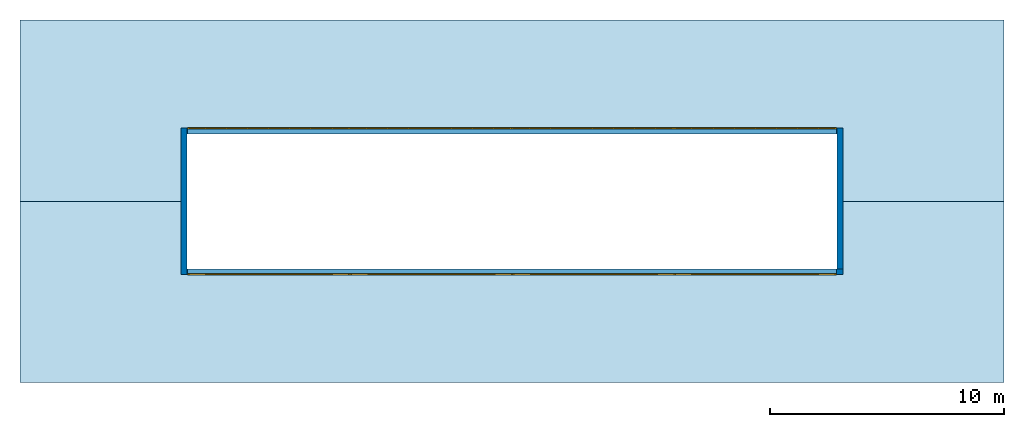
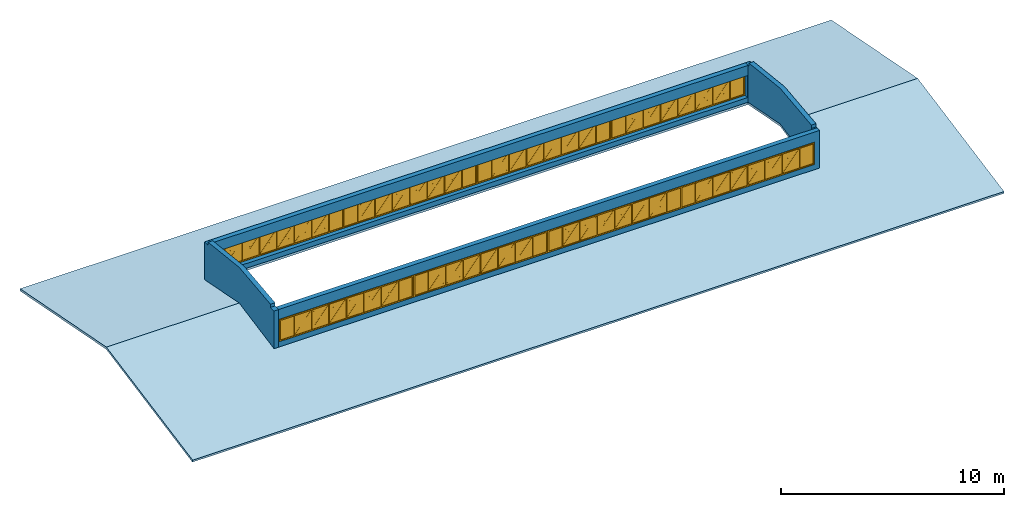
# One storey: 8 windows, 4 walls, 1 roof, 8 openings.
"""IFC2X3 building model written with IfcOpenShell, lengths in millimetres."""

from ifc_helpers import new_model, entity, si_unit, converted_unit, derived_unit, direction, frame, frame_2d, origin, origin_2d_with_axis, place, context, subcontext, project, spatial, polyline, rectangle, outline, extrude, clip, bounded_halfspace, faceted_brep, source, transform, mapped, material, material_list, layer, layer_set, layer_usage, type_object, type_shapes, element, fill, save


model = new_model("IFC2X3")

# Units and contexts
model_context = context("Model", 3, precision=0.01, world=origin(), true_north=direction((6.12303176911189e-17, 1.0)))
body_context = subcontext(model_context, "Body", "Model", "MODEL_VIEW")
ifc_project = project(units=[si_unit("LENGTHUNIT", "METRE", prefix="MILLI"), si_unit("AREAUNIT", "SQUARE_METRE"), si_unit("VOLUMEUNIT", "CUBIC_METRE"), converted_unit("PLANEANGLEUNIT", "DEGREE", entity("IfcRatioMeasure", 0.0174532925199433), si_unit("PLANEANGLEUNIT", "RADIAN"), dimensions=[0, 0, 0, 0, 0, 0, 0]), si_unit("MASSUNIT", "GRAM", prefix="KILO"), derived_unit("MASSDENSITYUNIT", [(si_unit("MASSUNIT", "GRAM", prefix="KILO"), 1), (si_unit("LENGTHUNIT", "METRE"), -3)]), si_unit("TIMEUNIT", "SECOND"), si_unit("FREQUENCYUNIT", "HERTZ"), si_unit("THERMODYNAMICTEMPERATUREUNIT", "DEGREE_CELSIUS"), derived_unit("THERMALTRANSMITTANCEUNIT", [(si_unit("MASSUNIT", "GRAM", prefix="KILO"), 1), (si_unit("THERMODYNAMICTEMPERATUREUNIT", "KELVIN"), -1), (si_unit("TIMEUNIT", "SECOND"), -3)]), derived_unit("VOLUMETRICFLOWRATEUNIT", [(si_unit("LENGTHUNIT", "METRE"), 3), (si_unit("TIMEUNIT", "SECOND"), -1)]), si_unit("ELECTRICCURRENTUNIT", "AMPERE"), si_unit("ELECTRICVOLTAGEUNIT", "VOLT"), si_unit("POWERUNIT", "WATT"), si_unit("FORCEUNIT", "NEWTON", prefix="KILO"), si_unit("ILLUMINANCEUNIT", "LUX"), si_unit("LUMINOUSFLUXUNIT", "LUMEN"), si_unit("LUMINOUSINTENSITYUNIT", "CANDELA"), derived_unit("USERDEFINED", [(si_unit("MASSUNIT", "GRAM", prefix="KILO"), -1), (si_unit("LENGTHUNIT", "METRE"), -2), (si_unit("TIMEUNIT", "SECOND"), 3), (si_unit("LUMINOUSFLUXUNIT", "LUMEN"), 1)]), derived_unit("LINEARVELOCITYUNIT", [(si_unit("LENGTHUNIT", "METRE"), 1), (si_unit("TIMEUNIT", "SECOND"), -1)]), si_unit("PRESSUREUNIT", "PASCAL"), derived_unit("USERDEFINED", [(si_unit("LENGTHUNIT", "METRE"), -2), (si_unit("MASSUNIT", "GRAM", prefix="KILO"), 1), (si_unit("TIMEUNIT", "SECOND"), -2)])], contexts=[model_context])

# Site, building, storey
site_placement = place(None, origin())
site = spatial("IfcSite", under=ifc_project, at=site_placement, Name="表面", CompositionType="ELEMENT")
building_placement = place(site_placement, origin())
building = spatial("IfcBuilding", under=site, at=building_placement, CompositionType="ELEMENT")
storey_placement = place(building_placement, frame((0.0, 0.0, 10390.0)))
storey = spatial("IfcBuildingStorey", under=building, at=storey_placement, Name="10.390", CompositionType="ELEMENT", Elevation=10390.0)

# Wall, openings, windows
ifc_material_1 = material(Name="砖石建筑 - 砖")
ifc_layer = layer(ifc_material_1, 240.0)
ifc_layer_set = layer_set([ifc_layer], Name="基本墙:砖墙240mm")
ifc_layer_usage_1 = layer_usage(ifc_layer_set, "AXIS2", "NEGATIVE", 120.0)
wall_type = type_object("IfcWallType", Name="基本墙:砖墙240mm", PredefinedType="STANDARD", material=ifc_layer_set)
wall_1_placement = place(storey_placement, frame((-24908.798781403, 5109.69740738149, 721.171731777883)))
wall_1 = element("IfcWallStandardCase", 1, at=wall_1_placement, inside=storey, type_object=wall_type, material=ifc_layer_usage_1, Name="基本墙:砖墙240mm", ObjectType="基本墙:砖墙240mm", context=body_context, shape_type="Clipping", body=[
    clip(extrude(rectangle(XDim=28000.0, YDim=240.0, at=frame_2d((14000.0, 1.70530256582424e-13), x_axis=(-1.0, 0.0))), origin(), (0.0, 0.0, 1.0), 2058.82826822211), bounded_halfspace(frame((28000.0, 120.0, 46.4339580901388), z_axis=(0.0, -0.189952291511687, 0.981793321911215), x_axis=(1.0, 0.0, 0.0)), True, frame((28000.0, 120.0, 46.4339580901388)), polyline([(0.0, 0.0), (-240.0, 0.0), (-28000.0, 0.0), (-28000.0, -240.0), (0.0, -240.0), (0.0, 0.0)]))),
])
opening_1_placement = place(wall_1_placement, frame((13910.0, 120.0, 308.82826822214)))
opening_1 = element("IfcOpeningElement", 2, at=opening_1_placement, cuts=wall_1, Name="房顶窗(c-8):房顶窗(c-8):1", ObjectType="Opening", context=body_context, shape_type="SweptSolid", body=[
    extrude(rectangle(XDim=1200.0, YDim=6940.0, at=frame_2d((600.0, 3470.0), x_axis=(1.0, 0.0))), frame((0.0, 0.0, 0.0), z_axis=(0.0, -1.0, 0.0), x_axis=(0.0, 0.0, 1.0)), (0.0, 0.0, 1.0), 240.0),
])
opening_2_placement = place(wall_1_placement, frame((20850.0, 120.0, 308.828268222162)))
opening_2 = element("IfcOpeningElement", 3, at=opening_2_placement, cuts=wall_1, Name="房顶窗(c-8):房顶窗(c-8):1", ObjectType="Opening", context=body_context, shape_type="SweptSolid", body=[
    extrude(rectangle(XDim=1200.0, YDim=6940.0, at=frame_2d((600.0, 3470.0), x_axis=(1.0, 0.0))), frame((0.0, 0.0, 0.0), z_axis=(0.0, -1.0, 0.0), x_axis=(0.0, 0.0, 1.0)), (0.0, 0.0, 1.0), 240.0),
])
opening_3_placement = place(wall_1_placement, frame((6970.0, 120.0, 308.828268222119)))
opening_3 = element("IfcOpeningElement", 4, at=opening_3_placement, cuts=wall_1, Name="房顶窗(c-8):房顶窗(c-8):1", ObjectType="Opening", context=body_context, shape_type="SweptSolid", body=[
    extrude(rectangle(XDim=1200.0, YDim=6940.0, at=frame_2d((600.0, 3470.0), x_axis=(1.0, 0.0))), frame((0.0, 0.0, 0.0), z_axis=(0.0, -1.0, 0.0), x_axis=(0.0, 0.0, 1.0)), (0.0, 0.0, 1.0), 240.0),
])
opening_4_placement = place(wall_1_placement, frame((27730.0, 120.0, 308.828268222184)))
opening_4 = element("IfcOpeningElement", 5, at=opening_4_placement, cuts=wall_1, Name="房顶窗(c-8):房顶窗(c-8):1", ObjectType="Opening", context=body_context, shape_type="SweptSolid", body=[
    extrude(rectangle(XDim=1200.0, YDim=6940.0, at=frame_2d((600.0, 3470.0), x_axis=(1.0, 0.0))), frame((0.0, 0.0, 0.0), z_axis=(0.0, -1.0, 0.0), x_axis=(0.0, 0.0, 1.0)), (0.0, 0.0, 1.0), 240.0),
])
ifc_material_2 = material(Name="窗框")
ifc_material_3 = material(Name="玻璃")
ifc_material_list_1 = material_list([ifc_material_2, ifc_material_3])
ifc_material_list_2 = material_list([ifc_material_2, ifc_material_3])
window_style = type_object("IfcWindowStyle", Name="房顶窗(c-8)", ConstructionType="NOTDEFINED", OperationType="NOTDEFINED", ParameterTakesPrecedence=False, Sizeable=False, material=ifc_material_list_2)
shared_shape = source(origin(), body_context, "Body", "SweptSolid", [
    extrude(rectangle(XDim=60.0, YDim=19.9999999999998, at=frame_2d((8.88178419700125e-15, 0.0), x_axis=(1.0, 0.0))), frame((770.0, 240.0, 60.0), z_axis=(0.0, 0.0, 1.0), x_axis=(0.0, 1.0, 0.0)), (0.0, 0.0, 1.0), 1080.0),
    extrude(rectangle(XDim=60.0, YDim=19.9999999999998, at=frame_2d((1.77635683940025e-14, 0.0), x_axis=(1.0, 0.0))), frame((6170.0, 240.0, 60.0), z_axis=(0.0, 0.0, 1.0), x_axis=(0.0, 1.0, 0.0)), (0.0, 0.0, 1.0), 1080.0),
    extrude(rectangle(XDim=60.0, YDim=19.9999999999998, at=frame_2d((-1.77635683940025e-14, 0.0), x_axis=(1.0, 0.0))), frame((5270.0, 240.0, 60.0), z_axis=(0.0, 0.0, 1.0), x_axis=(0.0, 1.0, 0.0)), (0.0, 0.0, 1.0), 1080.0),
    extrude(rectangle(XDim=60.0, YDim=19.9999999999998, at=frame_2d((1.77635683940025e-14, 0.0), x_axis=(1.0, 0.0))), frame((4370.0, 240.0, 60.0), z_axis=(0.0, 0.0, 1.0), x_axis=(0.0, 1.0, 0.0)), (0.0, 0.0, 1.0), 1080.0),
    extrude(rectangle(XDim=60.0, YDim=19.9999999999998, at=frame_2d((-1.77635683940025e-14, 0.0), x_axis=(1.0, 0.0))), frame((3470.0, 240.0, 60.0), z_axis=(0.0, 0.0, 1.0), x_axis=(0.0, 1.0, 0.0)), (0.0, 0.0, 1.0), 1080.0),
    extrude(rectangle(XDim=60.0, YDim=19.9999999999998, at=frame_2d((1.77635683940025e-14, 0.0), x_axis=(1.0, 0.0))), frame((2570.0, 240.0, 60.0), z_axis=(0.0, 0.0, 1.0), x_axis=(0.0, 1.0, 0.0)), (0.0, 0.0, 1.0), 1080.0),
    extrude(rectangle(XDim=60.0, YDim=19.9999999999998, at=frame_2d((-1.77635683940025e-14, 0.0), x_axis=(1.0, 0.0))), frame((1670.0, 240.0, 60.0), z_axis=(0.0, 0.0, 1.0), x_axis=(0.0, 1.0, 0.0)), (0.0, 0.0, 1.0), 1080.0),
    extrude(outline(polyline([(-3470.0, -600.0), (3470.0, -600.0), (3470.0, 600.0), (-3470.0, 600.0), (-3470.0, -600.0)]), holes=[polyline([(-3410.0, -540.0), (-3410.0, 540.0), (3410.0, 540.0), (3410.0, -540.0), (-3410.0, -540.0)])]), frame((3470.0, 210.0, 600.0), z_axis=(0.0, 1.0, 0.0), x_axis=(1.0, 0.0, 0.0)), (0.0, 0.0, 1.0), 60.0),
    extrude(rectangle(XDim=6.00000000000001, YDim=6820.0, at=origin_2d_with_axis()), frame((3470.0, 240.0, 60.0), z_axis=(0.0, 0.0, 1.0), x_axis=(0.0, 1.0, 0.0)), (0.0, 0.0, 1.0), 1080.0),
    extrude(outline(polyline([(530.0, -440.0), (540.0, -440.0), (540.0, -431.851851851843), (10.0, 0.0), (540.0, 431.851851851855), (540.0, 440.0), (530.0, 440.0), (0.0, 8.1481481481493), (-530.0, 440.0), (-540.0, 440.0), (-540.0, 431.851851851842), (-10.0, 0.0), (-540.0, -431.851851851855), (-540.0, -440.0), (-530.0, -440.0), (0.0, -8.14814814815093), (530.0, -440.0)])), frame((1220.0, 230.0, 600.0), z_axis=(0.0, 1.0, 0.0), x_axis=(0.0, 0.0, -1.0)), (0.0, 0.0, 1.0), 20.0),
    extrude(outline(polyline([(530.0, -440.0), (540.0, -440.0), (540.0, -431.851851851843), (10.0, 0.0), (540.0, 431.851851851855), (540.0, 440.0), (530.0, 440.0), (0.0, 8.14814814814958), (-530.0, 440.0), (-540.0, 440.0), (-540.0, 431.851851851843), (-10.0, 0.0), (-540.0, -431.851851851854), (-540.0, -440.0), (-530.0, -440.0), (0.0, -8.14814814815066), (530.0, -440.0)])), frame((2120.0, 230.0, 600.0), z_axis=(0.0, 1.0, 0.0), x_axis=(0.0, 0.0, -1.0)), (0.0, 0.0, 1.0), 20.0),
    extrude(outline(polyline([(530.0, -440.0), (540.0, -440.0), (540.0, -431.851851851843), (10.0, 0.0), (540.0, 431.851851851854), (540.0, 440.0), (530.0, 440.0), (0.0, 8.14814814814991), (-530.0, 440.0), (-540.0, 440.0), (-540.0, 431.851851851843), (-10.0, 0.0), (-540.0, -431.851851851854), (-540.0, -440.0), (-530.0, -440.0), (0.0, -8.14814814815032), (530.0, -440.0)])), frame((3020.0, 230.0, 600.0), z_axis=(0.0, 1.0, 0.0), x_axis=(0.0, 0.0, -1.0)), (0.0, 0.0, 1.0), 20.0),
    extrude(outline(polyline([(530.0, -440.0), (540.0, -440.0), (540.0, -431.851851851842), (10.0, 0.0), (540.0, 431.851851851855), (540.0, 440.0), (530.0, 440.0), (0.0, 8.14814814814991), (-530.0, 440.0), (-540.0, 440.0), (-540.0, 431.851851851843), (-10.0, 0.0), (-540.0, -431.851851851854), (-540.0, -440.0), (-530.0, -440.0), (0.0, -8.14814814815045), (530.0, -440.0)])), frame((3920.0, 230.0, 600.0), z_axis=(0.0, 1.0, 0.0), x_axis=(0.0, 0.0, -1.0)), (0.0, 0.0, 1.0), 20.0),
    extrude(outline(polyline([(530.0, -440.0), (540.0, -440.0), (540.0, -431.851851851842), (10.0, 0.0), (540.0, 431.851851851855), (540.0, 440.0), (530.0, 440.0), (0.0, 8.14814814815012), (-530.0, 440.0), (-540.0, 440.0), (-540.0, 431.851851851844), (-10.0, 0.0), (-540.0, -431.851851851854), (-540.0, -440.0), (-530.0, -440.0), (0.0, -8.14814814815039), (530.0, -440.0)])), frame((4820.0, 230.0, 600.0), z_axis=(0.0, 1.0, 0.0), x_axis=(0.0, 0.0, -1.0)), (0.0, 0.0, 1.0), 20.0),
    extrude(outline(polyline([(530.0, -440.0), (540.0, -440.0), (540.0, -431.851851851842), (10.0, 0.0), (540.0, 431.851851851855), (540.0, 440.0), (530.0, 440.0), (0.0, 8.14814814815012), (-530.0, 440.0), (-540.0, 440.0), (-540.0, 431.851851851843), (-10.0, 0.0), (-540.0, -431.851851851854), (-540.0, -440.0), (-530.0, -440.0), (0.0, -8.14814814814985), (530.0, -440.0)])), frame((5720.0, 230.0, 600.0), z_axis=(0.0, 1.0, 0.0), x_axis=(0.0, 0.0, -1.0)), (0.0, 0.0, 1.0), 20.0),
])
type_shapes(window_style, [shared_shape])
window_1_placement = place(opening_3_placement, frame((0.0, 0.0, 0.0), z_axis=(0.0, 0.0, 1.0), x_axis=(-1.0, 0.0, 0.0)))
window_1 = element("IfcWindow", 6, at=window_1_placement, inside=storey, type_object=window_style, material=ifc_material_list_1, Name="房顶窗(c-8):房顶窗(c-8)", ObjectType="房顶窗(c-8)", OverallHeight=1200.0, OverallWidth=6940.0, context=body_context, shape_type="MappedRepresentation", body=[
    mapped(shared_shape, transform((0.0, 0.0, 0.0), scale=1.0)),
])
fill(opening_3, window_1)
ifc_material_list_3 = material_list([ifc_material_2, ifc_material_3])
window_2_placement = place(opening_1_placement, frame((0.0, 0.0, 0.0), z_axis=(0.0, 0.0, 1.0), x_axis=(-1.0, 0.0, 0.0)))
window_2 = element("IfcWindow", 7, at=window_2_placement, inside=storey, type_object=window_style, material=ifc_material_list_3, Name="房顶窗(c-8):房顶窗(c-8)", ObjectType="房顶窗(c-8)", OverallHeight=1200.0, OverallWidth=6940.0, context=body_context, shape_type="MappedRepresentation", body=[
    mapped(shared_shape, transform((0.0, 0.0, 0.0), scale=1.0)),
])
fill(opening_1, window_2)
ifc_material_list_4 = material_list([ifc_material_2, ifc_material_3])
window_3_placement = place(opening_2_placement, frame((0.0, 0.0, 0.0), z_axis=(0.0, 0.0, 1.0), x_axis=(-1.0, 0.0, 0.0)))
window_3 = element("IfcWindow", 8, at=window_3_placement, inside=storey, type_object=window_style, material=ifc_material_list_4, Name="房顶窗(c-8):房顶窗(c-8)", ObjectType="房顶窗(c-8)", OverallHeight=1200.0, OverallWidth=6940.0, context=body_context, shape_type="MappedRepresentation", body=[
    mapped(shared_shape, transform((0.0, 0.0, 0.0), scale=1.0)),
])
fill(opening_2, window_3)
ifc_material_list_5 = material_list([ifc_material_2, ifc_material_3])
window_4_placement = place(opening_4_placement, frame((0.0, 0.0, 0.0), z_axis=(0.0, 0.0, 1.0), x_axis=(-1.0, 0.0, 0.0)))
window_4 = element("IfcWindow", 9, at=window_4_placement, inside=storey, type_object=window_style, material=ifc_material_list_5, Name="房顶窗(c-8):房顶窗(c-8)", ObjectType="房顶窗(c-8)", OverallHeight=1200.0, OverallWidth=6940.0, context=body_context, shape_type="MappedRepresentation", body=[
    mapped(shared_shape, transform((0.0, 0.0, 0.0), scale=1.0)),
])
fill(opening_4, window_4)

ifc_layer_usage_2 = layer_usage(ifc_layer_set, "AXIS2", "NEGATIVE", 120.0)
wall_2_placement = place(storey_placement, frame((-24908.798781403, 11109.6974073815, 721.17173177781)))
wall_2 = element("IfcWallStandardCase", 10, at=wall_2_placement, inside=storey, type_object=wall_type, material=ifc_layer_usage_2, Name="基本墙:砖墙240mm", ObjectType="基本墙:砖墙240mm", context=body_context, shape_type="Clipping", body=[
    clip(extrude(rectangle(XDim=27760.0, YDim=240.000000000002, at=frame_2d((13880.0, 2.48689957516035e-13), x_axis=(-1.0, 0.0))), origin(), (0.0, 0.0, 1.0), 2058.82826822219), bounded_halfspace(frame((27760.0, -120.0, 46.4339580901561), z_axis=(0.0, 0.189952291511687, 0.981793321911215), x_axis=(-1.0, 0.0, 0.0)), True, frame((27760.0, -120.0, 46.4339580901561)), polyline([(0.0, 0.0), (0.0, 240.0), (-27760.0, 240.0), (-27760.0, 0.0), (0.0, 0.0)]))),
])
opening_5_placement = place(wall_2_placement, frame((20790.0, -120.0, 308.828268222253)))
opening_5 = element("IfcOpeningElement", 11, at=opening_5_placement, cuts=wall_2, Name="房顶窗(c-8):房顶窗(c-8):1", ObjectType="Opening", context=body_context, shape_type="SweptSolid", body=[
    extrude(rectangle(XDim=1200.0, YDim=6940.0, at=frame_2d((600.000000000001, 3470.0), x_axis=(1.0, 0.0))), frame((0.0, 0.0, 0.0), z_axis=(0.0, 1.0, 0.0), x_axis=(0.0, 0.0, 1.0)), (0.0, 0.0, 1.0), 240.0),
])
opening_6_placement = place(wall_2_placement, frame((13850.0, -120.0, 308.828268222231)))
opening_6 = element("IfcOpeningElement", 12, at=opening_6_placement, cuts=wall_2, Name="房顶窗(c-8):房顶窗(c-8):1", ObjectType="Opening", context=body_context, shape_type="SweptSolid", body=[
    extrude(rectangle(XDim=1200.0, YDim=6940.0, at=frame_2d((600.000000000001, 3470.0), x_axis=(1.0, 0.0))), frame((0.0, 0.0, 0.0), z_axis=(0.0, 1.0, 0.0), x_axis=(0.0, 0.0, 1.0)), (0.0, 0.0, 1.0), 240.0),
])
opening_7_placement = place(wall_2_placement, frame((6910.0, -120.0, 308.82826822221)))
opening_7 = element("IfcOpeningElement", 13, at=opening_7_placement, cuts=wall_2, Name="房顶窗(c-8):房顶窗(c-8):1", ObjectType="Opening", context=body_context, shape_type="SweptSolid", body=[
    extrude(rectangle(XDim=1200.0, YDim=6940.0, at=frame_2d((600.000000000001, 3470.0), x_axis=(1.0, 0.0))), frame((0.0, 0.0, 0.0), z_axis=(0.0, 1.0, 0.0), x_axis=(0.0, 0.0, 1.0)), (0.0, 0.0, 1.0), 240.0),
])
opening_8_placement = place(wall_2_placement, frame((30.0, -120.0, 308.828268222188)))
opening_8 = element("IfcOpeningElement", 14, at=opening_8_placement, cuts=wall_2, Name="房顶窗(c-8):房顶窗(c-8):1", ObjectType="Opening", context=body_context, shape_type="SweptSolid", body=[
    extrude(rectangle(XDim=1200.0, YDim=6940.0, at=frame_2d((600.000000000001, 3470.0), x_axis=(1.0, 0.0))), frame((0.0, 0.0, 0.0), z_axis=(0.0, 1.0, 0.0), x_axis=(0.0, 0.0, 1.0)), (0.0, 0.0, 1.0), 240.0),
])
ifc_material_list_6 = material_list([ifc_material_2, ifc_material_3])
window_5_placement = place(opening_8_placement, origin())
window_5 = element("IfcWindow", 15, at=window_5_placement, inside=storey, type_object=window_style, material=ifc_material_list_6, Name="房顶窗(c-8):房顶窗(c-8)", ObjectType="房顶窗(c-8)", OverallHeight=1200.0, OverallWidth=6940.0, context=body_context, shape_type="MappedRepresentation", body=[
    mapped(shared_shape, transform((0.0, 0.0, 0.0), scale=1.0)),
])
fill(opening_8, window_5)
ifc_material_list_7 = material_list([ifc_material_2, ifc_material_3])
window_6_placement = place(opening_7_placement, origin())
window_6 = element("IfcWindow", 16, at=window_6_placement, inside=storey, type_object=window_style, material=ifc_material_list_7, Name="房顶窗(c-8):房顶窗(c-8)", ObjectType="房顶窗(c-8)", OverallHeight=1200.0, OverallWidth=6940.0, context=body_context, shape_type="MappedRepresentation", body=[
    mapped(shared_shape, transform((0.0, 0.0, 0.0), scale=1.0)),
])
fill(opening_7, window_6)
ifc_material_list_8 = material_list([ifc_material_2, ifc_material_3])
window_7_placement = place(opening_6_placement, origin())
window_7 = element("IfcWindow", 17, at=window_7_placement, inside=storey, type_object=window_style, material=ifc_material_list_8, Name="房顶窗(c-8):房顶窗(c-8)", ObjectType="房顶窗(c-8)", OverallHeight=1200.0, OverallWidth=6940.0, context=body_context, shape_type="MappedRepresentation", body=[
    mapped(shared_shape, transform((0.0, 0.0, 0.0), scale=1.0)),
])
fill(opening_6, window_7)
ifc_material_list_9 = material_list([ifc_material_2, ifc_material_3])
window_8_placement = place(opening_5_placement, origin())
window_8 = element("IfcWindow", 18, at=window_8_placement, inside=storey, type_object=window_style, material=ifc_material_list_9, Name="房顶窗(c-8):房顶窗(c-8)", ObjectType="房顶窗(c-8)", OverallHeight=1200.0, OverallWidth=6940.0, context=body_context, shape_type="MappedRepresentation", body=[
    mapped(shared_shape, transform((0.0, 0.0, 0.0), scale=1.0)),
])
fill(opening_5, window_8)

# Walls
ifc_layer_usage_3 = layer_usage(ifc_layer_set, "AXIS2", "NEGATIVE", 120.0)
wall_3_placement = place(storey_placement, frame((-25028.798781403, 11229.6974073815, 721.17173177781), z_axis=(0.0, 0.0, 1.0), x_axis=(0.0, -1.0, 0.0)))
element("IfcWallStandardCase", 19, at=wall_3_placement, inside=storey, type_object=wall_type, material=ifc_layer_usage_3, Name="基本墙:砖墙240mm", ObjectType="基本墙:砖墙240mm", context=body_context, shape_type="Clipping", body=[
    clip(clip(clip(clip(clip(clip(extrude(rectangle(XDim=6240.0, YDim=239.999999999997, at=frame_2d((3120.0, 1.70530256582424e-13), x_axis=(-1.0, 0.0))), origin(), (0.0, 0.0, 1.0), 2553.82826822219), bounded_halfspace(frame((3120.0, -120.0, 603.64145517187), z_axis=(-0.189952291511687, 0.0, 0.981793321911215), x_axis=(0.0, -1.0, 0.0)), True, frame((3120.0, -120.0, 603.64145517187)), polyline([(0.0, 0.0), (0.0, 240.0), (-2880.0, 240.0), (-3120.0, 240.0), (-3120.0, 0.0), (0.0, 0.0)]))), bounded_halfspace(frame((6240.0, -120.0, 0.0), z_axis=(0.189952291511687, 0.0, 0.981793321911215), x_axis=(0.0, 1.0, 0.0)), True, frame((6240.0, -120.0, 0.0)), polyline([(0.0, 0.0), (0.0, 240.0), (-240.0, 240.0), (-3120.0, 240.0), (-3120.0, 0.0), (0.0, 0.0)]))), bounded_halfspace(frame((3120.0, -120.0, 2553.82826822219), z_axis=(0.111794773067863, 0.0, 0.993731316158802), x_axis=(0.993731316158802, 0.0, -0.111794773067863)), False, frame((3120.0, -120.0, 2553.82826822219)), polyline([(0.0, 0.0), (2800.0, 0.0), (2800.0, 240.0), (0.0, 240.0), (0.0, 0.0)]))), bounded_halfspace(frame((320.0, -120.0, 2238.8282682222), z_axis=(-0.11179477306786, 0.0, 0.993731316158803), x_axis=(0.0, 1.0, 0.0)), False, frame((320.0, -120.0, 2238.8282682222)), polyline([(0.0, 0.0), (2800.0, 0.0), (2800.0, 240.0), (0.0, 240.0), (0.0, 0.0)]))), bounded_halfspace(frame((5920.0, -120.0, 2058.82826822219), z_axis=(0.0, 0.0, 1.0), x_axis=(0.0, 1.0, 0.0)), False, frame((5920.0, -120.0, 2058.82826822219)), polyline([(0.0, 0.0), (320.0, 0.0), (320.0, 240.0), (80.0, 240.0), (0.0, 240.0), (0.0, 0.0)]))), bounded_halfspace(frame((0.0, -120.0, 2058.82826822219), z_axis=(0.0, 0.0, 1.0), x_axis=(0.0, 1.0, 0.0)), False, frame((0.0, -120.0, 2058.82826822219)), polyline([(0.0, 0.0), (320.0, 0.0), (320.0, 240.0), (240.0, 240.0), (0.0, 240.0), (0.0, 0.0)]))),
])
ifc_layer_usage_4 = layer_usage(ifc_layer_set, "AXIS2", "NEGATIVE", 120.0)
wall_4_placement = place(storey_placement, frame((2971.20121859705, 11229.6974073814, 721.171731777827), z_axis=(0.0, 0.0, 1.0), x_axis=(0.0, -1.0, 0.0)))
element("IfcWallStandardCase", 20, at=wall_4_placement, inside=storey, type_object=wall_type, material=ifc_layer_usage_4, Name="基本墙:砖墙240mm", ObjectType="基本墙:砖墙240mm", context=body_context, shape_type="Clipping", body=[
    clip(clip(clip(clip(clip(clip(extrude(rectangle(XDim=6000.0, YDim=240.0, at=frame_2d((3000.0, 0.0), x_axis=(-1.0, 0.0))), origin(), (0.0, 0.0, 1.0), 2553.82826822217), bounded_halfspace(frame((3120.0, -120.0, 603.641455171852), z_axis=(-0.189952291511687, 0.0, 0.981793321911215), x_axis=(0.0, -1.0, 0.0)), True, frame((3120.0, -120.0, 603.641455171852)), polyline([(0.0, 0.0), (0.0, 240.0), (-3120.0, 240.0), (-3120.0, 0.0), (-2880.0, 0.0), (0.0, 0.0)]))), bounded_halfspace(frame((6000.0, -120.0, 46.4339580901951), z_axis=(0.189952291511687, 0.0, 0.981793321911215), x_axis=(0.0, 1.0, 0.0)), True, frame((6000.0, -120.0, 46.4339580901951)), polyline([(0.0, 0.0), (0.0, 240.0), (-2880.0, 240.0), (-2880.0, 0.0), (0.0, 0.0)]))), bounded_halfspace(frame((3120.0, -120.0, 2553.82826822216), z_axis=(0.111794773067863, 0.0, 0.993731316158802), x_axis=(0.993731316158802, 0.0, -0.111794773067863)), False, frame((3120.0, -120.0, 2553.82826822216)), polyline([(0.0, 0.0), (2800.0, 0.0), (2800.0, 240.0), (0.0, 240.0), (0.0, 0.0)]))), bounded_halfspace(frame((320.0, -120.0, 2238.82826822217), z_axis=(-0.11179477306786, 0.0, 0.993731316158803), x_axis=(0.0, 1.0, 0.0)), False, frame((320.0, -120.0, 2238.82826822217)), polyline([(0.0, 0.0), (2800.0, 0.0), (2800.0, 240.0), (0.0, 240.0), (0.0, 0.0)]))), bounded_halfspace(frame((5920.0, -120.0, 2058.82826822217), z_axis=(0.0, 0.0, 1.0), x_axis=(0.0, 1.0, 0.0)), False, frame((5920.0, -120.0, 2058.82826822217)), polyline([(0.0, 0.0), (80.0, 0.0), (80.0, 240.0), (0.0, 240.0), (0.0, 0.0)]))), bounded_halfspace(frame((0.0, -120.0, 2058.82826822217), z_axis=(0.0, 0.0, 1.0), x_axis=(0.0, 1.0, 0.0)), False, frame((0.0, -120.0, 2058.82826822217)), polyline([(0.0, 0.0), (240.0, 0.0), (320.0, 0.0), (320.0, 240.0), (0.0, 240.0), (0.0, 0.0)]))),
])

# Roof
ifc_material_4 = material(Name="彩钢-蓝")
roof_placement = place(storey_placement, frame((-32028.798781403, 369.697407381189, -295.406126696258)))
element("IfcRoof", 21, at=roof_placement, inside=storey, material=ifc_material_4, Name="基本屋顶:常规 - 125mm", ObjectType="基本屋顶:常规 - 125mm", ShapeType="NOTDEFINED", context=body_context, shape_type="Brep", body=[
    faceted_brep([(34880.0, 10620.0, 935.693778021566), (34880.0, 10620.0, 1063.01181656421), (7120.0, 10620.0, 1063.01181656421), (7120.0, 10620.0, 935.693778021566), (7120.0, 7740.0, 1620.21931364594), (7120.0, 4860.0, 1063.01181656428), (7120.0, 4860.0, 935.693778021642), (7120.0, 7740.0, 1492.9012751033), (34880.0, 4860.0, 1063.01181656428), (34880.0, 4860.0, 935.693778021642), (34880.0, 7740.0, 1492.90127510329), (34880.0, 7740.0, 1620.21931364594), (0.0, 7740.0, 1492.90127510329), (0.0, 15456.2559635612, 0.0), (42000.0, 15456.2559635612, 0.0), (42000.0, 7740.0, 1492.90127510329), (0.0, 23.7440364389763, 0.0), (42000.0, 23.7440364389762, 0.0), (0.0, 15480.0, 122.724165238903), (0.0, 7740.0, 1620.21931364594), (42000.0, 7740.0, 1620.21931364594), (42000.0, 15480.0, 122.724165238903), (42000.0, 0.0, 122.724165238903), (0.0, 0.0, 122.724165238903)], [[[0, 1, 2, 3]], [[3, 2, 4, 5, 6, 7]], [[6, 5, 8, 9]], [[1, 0, 10, 9, 8, 11]], [[12, 13, 14, 15, 10, 0, 3, 7]], [[16, 12, 7, 6, 9, 10, 15, 17]], [[18, 19, 4, 2, 1, 11, 20, 21]], [[22, 20, 11, 8, 5, 4, 19, 23]], [[13, 12, 16, 23, 19, 18]], [[15, 14, 21, 20, 22, 17]], [[16, 17, 22, 23]], [[14, 13, 18, 21]]]),
])

save(model, "model.ifc")
